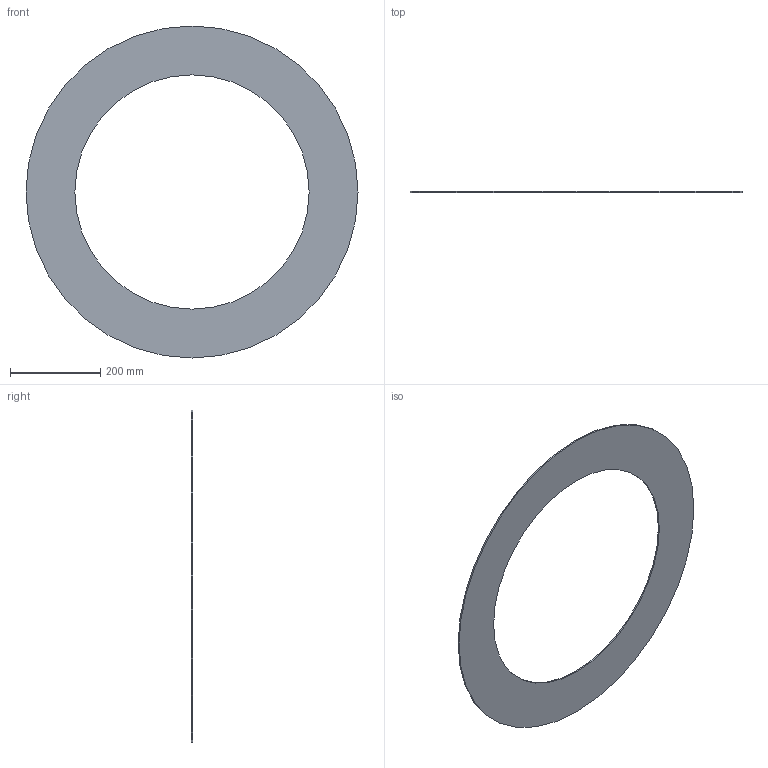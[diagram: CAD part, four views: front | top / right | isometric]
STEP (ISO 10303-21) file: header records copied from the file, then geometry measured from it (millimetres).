
FILE_DESCRIPTION(/* description */ ('Unknown'),/* implementation_level */ '2;1');
FILE_NAME(/* name */ 'GUA.630C',/* time_stamp */ '2021-04-01T14:28:46+02:00',/* author */ ('Unknown'),/* organization */ ('Unknown'),/* preprocessor_version */ 'ST-DEVELOPER v16.7',/* originating_system */ 'Solid Edge',/* authorisation */ 'Unknown');
FILE_SCHEMA (('AUTOMOTIVE_DESIGN {1 0 10303 214 3 1 1}'));
Length unit declared in the file: millimetre
Products named in the file (1): GUA.630C
Bounding box: 734 x 3 x 734 mm (x, y, z)
Volume: 637190.4 mm3; surface area: 436593.4 mm2
Topology: 1 solids, 1 shells, 4 faces, 6 edges, 4 vertices
Faces by surface type: cylinder 2, plane 2
Full cylindrical faces by diameter (mm): 518 x1, 734 x1
Entity records: 118 total; most frequent: DIRECTION 18, CARTESIAN_POINT 13, AXIS2_PLACEMENT_3D 9, ORIENTED_EDGE 8, EDGE_LOOP 8, FACE_BOUND 8, EDGE_CURVE 4, VERTEX_POINT 4
